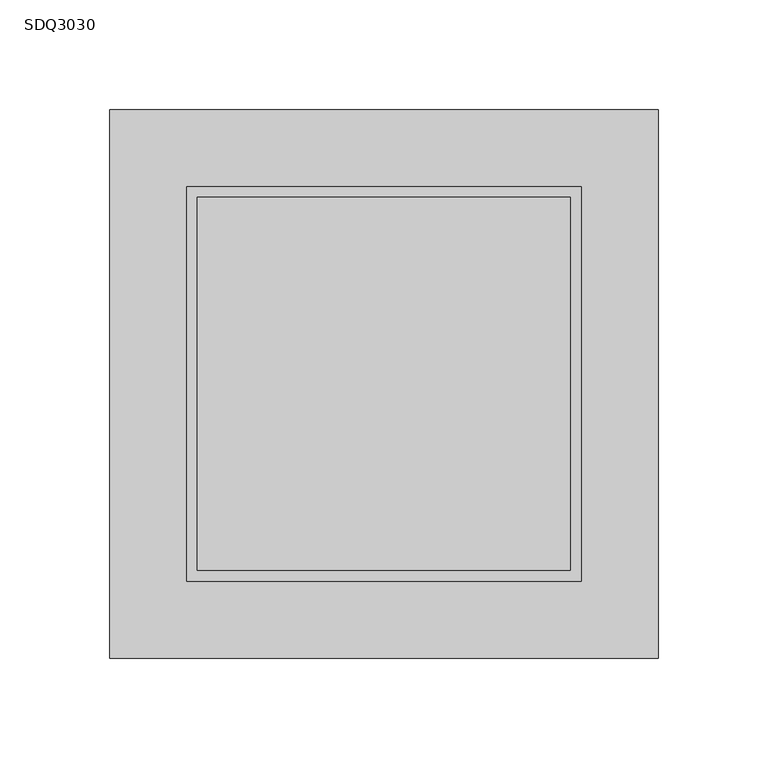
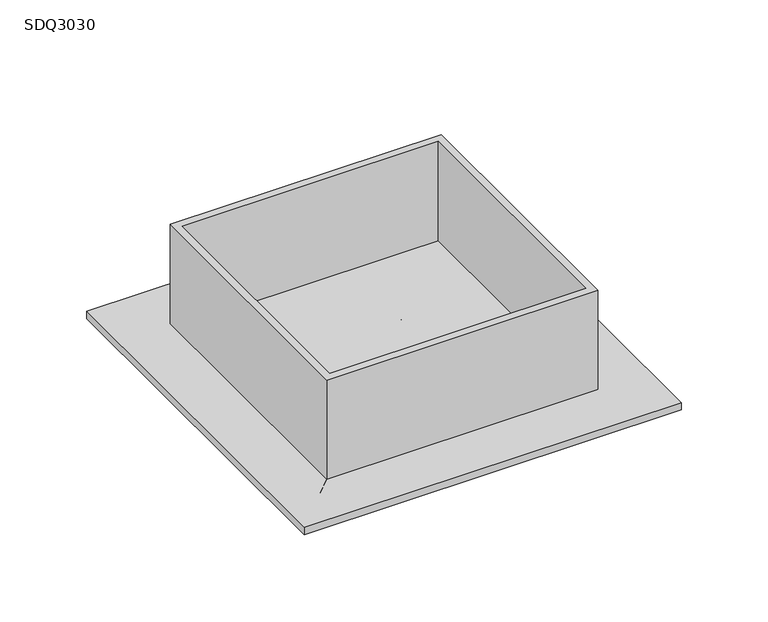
"""IFC4 building model written with IfcOpenShell, lengths in millimetres: air terminal geometry, 11 - Difusor Quadrado : SDQ3030."""

from ifc_helpers import new_model, si_unit, frame, origin, origin_with_axes, place, context, project, spatial, polyline, outline, extrude, source, transform, mapped, element, save


def sdq3030_c899bc25(model_context):
    return source(origin(), model_context, "Body", "SweptSolid", [
        extrude(outline(polyline([(125.0, 125.0), (125.0, -125.0), (-125.0, -125.0), (-125.0, 125.0), (125.0, 125.0)])), origin_with_axes(), (0.0, 0.0, 1.0), 5.0),
        extrude(outline(polyline([(90.0, 90.0), (90.0, -90.0), (-90.0, -90.0), (-90.0, 90.0), (90.0, 90.0)]), holes=[polyline([(85.0, 85.0), (-85.0, 85.0), (-85.0, -85.0), (85.0, -85.0), (85.0, 85.0)])]), frame((0.0, 0.0, 5.0), z_axis=(0.0, 0.0, 1.0), x_axis=(1.0, 0.0, 0.0)), (0.0, 0.0, 1.0), 70.0),
        extrude(outline(polyline([(100.0, 100.0), (100.0, -100.0), (-100.0, -100.0), (-100.0, 100.0), (100.0, 100.0)])), origin_with_axes(), (0.0, 0.0, 1.0), 5.0),
        extrude(outline(polyline([(75.0, 75.0), (75.0, -75.0), (-75.0, -75.0), (-75.0, 75.0), (75.0, 75.0)])), origin_with_axes(), (0.0, 0.0, 1.0), 5.0),
        extrude(outline(polyline([(50.0, 50.0), (50.0, -50.0), (-50.0, -50.0), (-50.0, 50.0), (50.0, 50.0)])), origin_with_axes(), (0.0, 0.0, 1.0), 5.0),
        extrude(outline(polyline([(25.0, 25.0), (25.0, -25.0), (-25.0, -25.0), (-25.0, 25.0), (25.0, 25.0)])), origin_with_axes(), (0.0, 0.0, 1.0), 5.0),
        extrude(outline(polyline([(5.0, 5.0), (5.0, -5.0), (-5.0, -5.0), (-5.0, 5.0), (5.0, 5.0)])), origin_with_axes(), (0.0, 0.0, 1.0), 5.0),
        extrude(outline(polyline([(5.0, 5.0), (100.0, 100.0), (100.0, -100.0), (5.0, -5.0), (5.0, 5.0)])), origin_with_axes(), (0.0, 0.0, 1.0), 5.0),
        extrude(outline(polyline([(-5.0, 5.0), (-5.0, -5.0), (-100.0, -100.0), (-100.0, 100.0), (-5.0, 5.0)])), origin_with_axes(), (0.0, 0.0, 1.0), 5.0),
        extrude(outline(polyline([(100.0, 100.0), (5.0, 5.0), (-5.0, 5.0), (-100.0, 100.0), (100.0, 100.0)])), origin_with_axes(), (0.0, 0.0, 1.0), 5.0),
        extrude(outline(polyline([(100.0, -100.0), (-100.0, -100.0), (-5.0, -5.0), (5.0, -5.0), (100.0, -100.0)])), origin_with_axes(), (0.0, 0.0, 1.0), 5.0),
    ])


if __name__ == "__main__":
    model = new_model("IFC4")
    model_context = context("Model", 3, world=origin())
    ifc_project = project(units=[si_unit("LENGTHUNIT", "METRE", prefix="MILLI")], contexts=[model_context])
    site = spatial("IfcSite", under=ifc_project)
    building = spatial("IfcBuilding", under=site)
    placement = place(None, origin())
    sdq3030_shape = sdq3030_c899bc25(model_context)
    element("IfcAirTerminal", 1, ObjectType="11 - Difusor Quadrado : SDQ3030", at=placement, inside=building, context=model_context, shape_type="MappedRepresentation", body=[
        mapped(sdq3030_shape, transform((0.0, 0.0, 0.0), x_axis=(1.0, 0.0, 0.0), y_axis=(0.0, 1.0, 0.0), z_axis=(0.0, 0.0, 1.0))),
    ])
    save(model, "model.ifc")
